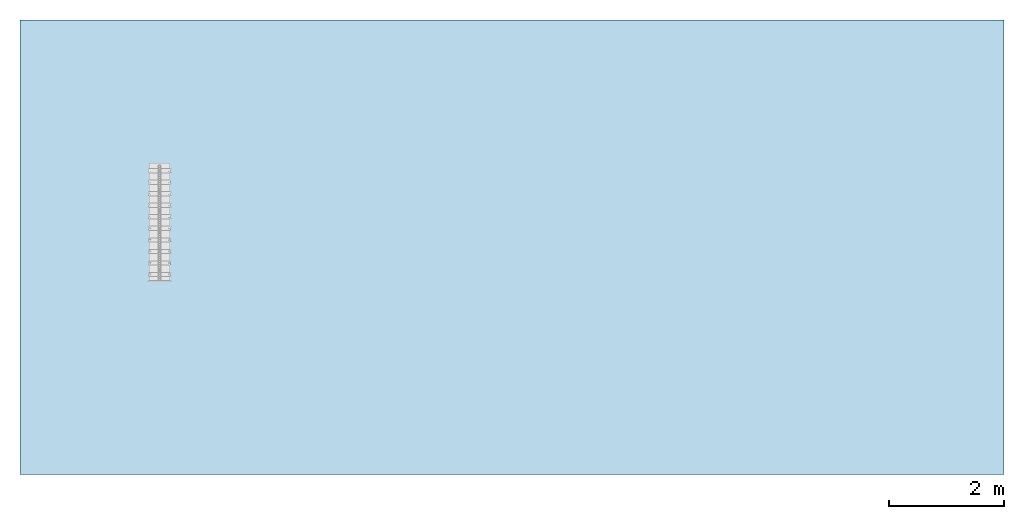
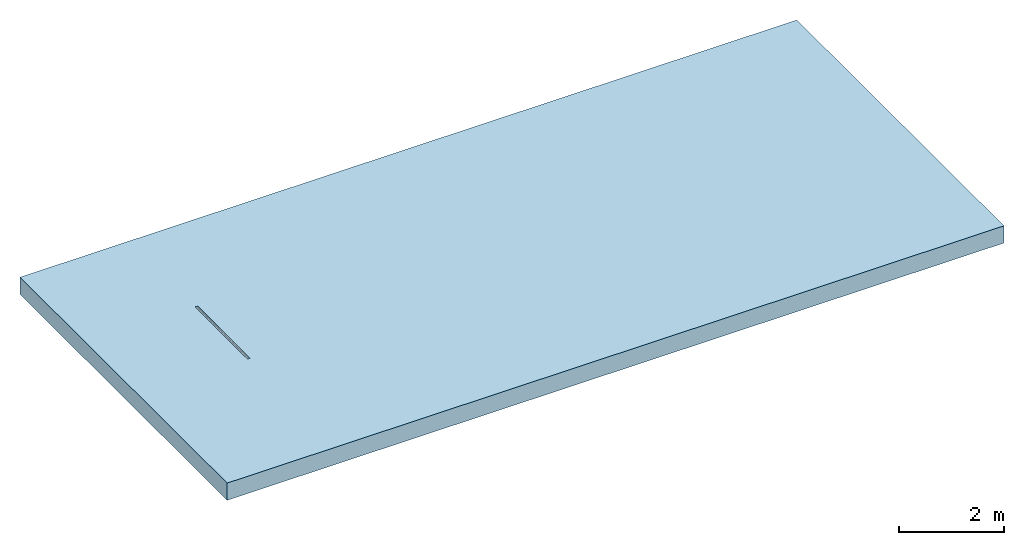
# One storey, incomplete: 1 slab, 1 opening.
"""IFC2X3 building model written with IfcOpenShell, lengths in millimetres."""

from ifc_helpers import new_model, entity, si_unit, converted_unit, direction, frame, frame_2d, origin, place, context, subcontext, project, spatial, polyline, rectangle, outline, extrude, material, layer, layer_set, layer_usage, element, save


model = new_model("IFC2X3")

# Units and contexts
model_context = context("Model", 3, precision=1e-06, world=origin(), true_north=direction((2.0, 6.12303176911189e-17, 1.0)))
context_of_model = context(None, 3, precision=1e-06, world=origin(), true_north=direction((2.0, 6.12303176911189e-17, 1.0)))
body_context = subcontext(model_context, "Body", "Model", "MODEL_VIEW")
ifc_project = project(units=[si_unit("LENGTHUNIT", "METRE", prefix="MILLI"), si_unit("AREAUNIT", "SQUARE_METRE", prefix="MILLI"), si_unit("VOLUMEUNIT", "CUBIC_METRE", prefix="MILLI"), converted_unit("PLANEANGLEUNIT", "DEGREE", entity("IfcRatioMeasure", 0.0174532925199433), si_unit("PLANEANGLEUNIT", "RADIAN"), dimensions=[0, 0, 0, 0, 0, 0, 0]), si_unit("TIMEUNIT", "SECOND")], contexts=[model_context, context_of_model])

# Site, building, storey
site_placement = place(None, origin())
site = spatial("IfcSite", under=ifc_project, at=site_placement, Name="Default", CompositionType="ELEMENT")
building_placement = place(site_placement, origin())
building = spatial("IfcBuilding", under=site, at=building_placement, CompositionType="ELEMENT")
storey_placement = place(building_placement, origin())
storey = spatial("IfcBuildingStorey", under=building, at=storey_placement, Name="Level 1", CompositionType="ELEMENT", Elevation=0.0)

# Slab, opening
ifc_material = material(Name="Plant")
ifc_layer = layer(ifc_material, 400.0)
ifc_layer_set = layer_set([ifc_layer], Name="Floor:Generic Floor - 400mm")
ifc_layer_usage = layer_usage(ifc_layer_set, "AXIS3", "POSITIVE", 0.0)
slab_placement = place(storey_placement, origin())
slab = element("IfcSlab", 1, at=slab_placement, inside=storey, material=ifc_layer_usage, Name="Floor:Generic Floor - 400mm", ObjectType="Floor:Generic Floor - 400mm", PredefinedType="FLOOR", context=body_context, shape_type="SweptSolid", body=[
    extrude(rectangle(XDim=7900.0, YDim=17100.0, at=frame_2d((0.0, 0.0), x_axis=(0.0, -1.0))), frame((-8097.86261836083, 1059.07636553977, 0.0), z_axis=(0.0, 0.0, -1.0), x_axis=(-1.0, 0.0, 0.0)), (0.0, 0.0, 1.0), 400.0),
])
opening_placement = place(slab_placement, origin())
element("IfcOpeningElement", 2, at=opening_placement, cuts=slab, ObjectType="Opening", context=body_context, shape_type="SweptSolid", body=[
    extrude(outline(polyline([(-165.0, 27.4999999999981), (-165.0, -27.5000000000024), (-135.0, -27.5000000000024), (-135.0, -207.500000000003), (435.0, -207.500000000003), (435.0, 207.499999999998), (-135.0, 207.499999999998), (-135.0, 27.4999999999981), (-165.0, 27.4999999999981)])), frame((-14222.8030800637, 486.472255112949, -165.0), z_axis=(0.0, -1.0, 0.0), x_axis=(0.0, 0.0, -1.0)), (0.0, 0.0, -1.0), 2000.0),
])

save(model, "model.ifc")
